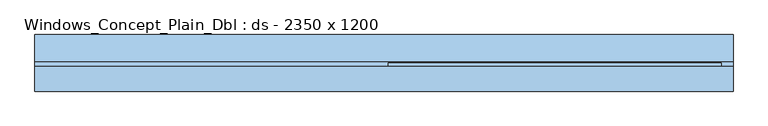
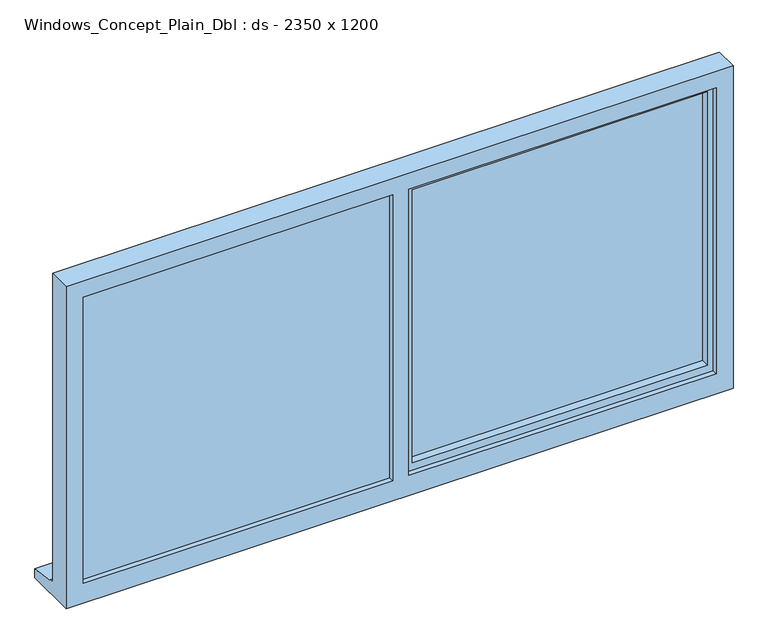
"""IFC4 building model written with IfcOpenShell, lengths in millimetres: window geometry, Windows_Concept_Plain_Dbl : ds - 2350 x 1200."""

from ifc_helpers import new_model, si_unit, frame, origin, place, context, project, spatial, polyline, outline, extrude, faceted_brep, source, transform, mapped, element, save


def windows_concept_plain_dbl_ds_2350_x_1200_e312b389(model_context):
    return source(origin(), model_context, "Body", "SolidModel", [
        extrude(outline(polyline([(820.0, 52.4565678), (-240.0, 52.4565678), (-240.0, 76.4565678), (820.0, 76.4565678), (820.0, 52.4565678)])), frame((0.0, 0.0, 1003.0), z_axis=(0.0, 0.0, 1.0), x_axis=(1.0, 0.0, 0.0)), (0.0, 0.0, 1.0), 1037.0),
        extrude(outline(polyline([(-1420.0, 47.4565678), (-300.0, 47.4565678), (-300.0, 23.4565678), (-1420.0, 23.4565678), (-1420.0, 47.4565678)])), frame((0.0, 0.0, 973.0), z_axis=(0.0, 0.0, 1.0), x_axis=(1.0, 0.0, 0.0)), (0.0, 0.0, 1.0), 1097.0),
        faceted_brep([(890.0, 5.4565678, 2110.0), (-1460.0, 5.4565678, 2110.0), (-1460.0, 5.4565678, 910.0), (890.0, 5.4565678, 910.0), (830.0, 5.4565678, 2050.0), (830.0, 5.4565678, 985.0), (-252.0, 5.4565678, 985.0), (-252.0, 5.4565678, 2050.0), (-310.0, 5.4565678, 2050.0), (-310.0, 5.4565678, 985.0), (-1400.0, 5.4565678, 985.0), (-1400.0, 5.4565678, 2050.0), (-1460.0, 88.4565678, 2110.0), (-1460.0, 88.4565678, 961.0), (-1460.0, 103.4565678, 959.68767), (-1460.0, 103.4565678, 954.7449676), (-1460.0, 195.9565678, 943.8088847), (-1460.0, 195.9565678, 910.0), (890.0, 88.4565678, 2110.0), (890.0, 88.4565678, 961.0), (-1420.0, 88.4565678, 2070.0), (-1420.0, 88.4565678, 973.0), (-310.0, 88.4565678, 973.0), (-310.0, 88.4565678, 2070.0), (-270.0, 88.4565678, 2070.0), (-270.0, 88.4565678, 973.0), (850.0, 88.4565678, 973.0), (850.0, 88.4565678, 2070.0), (-1420.0, 23.4565678, 2070.0), (-1420.0, 23.4565678, 973.0), (-300.0, 23.4565678, 2070.0), (-300.0, 23.4565678, 973.0), (-310.0, 23.4565678, 2050.0), (-1400.0, 23.4565678, 2050.0), (-1400.0, 23.4565678, 985.0), (-310.0, 23.4565678, 985.0), (-270.0, 23.4565678, 2070.0), (850.0, 23.4565678, 2070.0), (850.0, 23.4565678, 973.0), (-270.0, 23.4565678, 973.0), (830.0, 23.4565678, 2050.0), (-252.0, 23.4565678, 2050.0), (-252.0, 23.4565678, 985.0), (830.0, 23.4565678, 985.0), (-310.0, 47.4565678, 2070.0), (-300.0, 47.4565678, 2070.0), (890.0, 195.9565678, 910.0), (890.0, 195.9565678, 943.8088847), (890.0, 103.4565678, 954.7449676), (890.0, 103.4565678, 959.68767), (-300.0, 47.4565678, 973.0), (-310.0, 47.4565678, 973.0)], [[[0, 1, 2, 3], [4, 5, 6, 7], [8, 9, 10, 11]], [[2, 1, 12, 13, 14, 15, 16, 17]], [[13, 12, 18, 19], [20, 21, 22, 23], [24, 25, 26, 27]], [[21, 20, 28, 29]], [[28, 30, 31, 29], [32, 33, 34, 35]], [[36, 37, 38, 39], [40, 41, 42, 43]], [[33, 11, 10, 34]], [[1, 0, 18, 12]], [[28, 20, 23, 44, 45, 30]], [[27, 37, 36, 24]], [[11, 33, 32, 8]], [[40, 4, 7, 41]], [[19, 18, 0, 3, 46, 47, 48, 49]], [[27, 26, 38, 37]], [[4, 40, 43, 5]], [[45, 50, 31, 30]], [[50, 45, 44, 51]], [[51, 44, 23, 22]], [[25, 24, 36, 39]], [[41, 7, 6, 42]], [[8, 32, 35, 9]], [[46, 3, 2, 17]], [[47, 46, 17, 16]], [[48, 47, 16, 15]], [[49, 48, 15, 14]], [[19, 49, 14, 13]], [[22, 21, 29, 31, 50, 51]], [[26, 25, 39, 38]], [[6, 5, 43, 42]], [[35, 34, 10, 9]]]),
        extrude(outline(polyline([(2050.0, -310.0), (2070.0, -310.0), (2070.0, -1420.0), (973.0, -1420.0), (973.0, -310.0), (993.0, -310.0), (993.0, -1400.0), (2050.0, -1400.0), (2050.0, -310.0)])), frame((0.0, 47.4565678, 0.0), z_axis=(0.0, 1.0, 0.0), x_axis=(0.0, 0.0, 1.0)), (0.0, 0.0, 1.0), 41.0),
        faceted_brep([(-270.0, 23.4565678, 2070.0), (-270.0, 100.0035732, 2070.0), (-270.0, 100.0035732, 973.0), (-270.0, 23.4565678, 973.0), (-230.0, 52.4565678, 2030.0), (-230.0, 23.4565678, 2030.0), (-230.0, 23.4565678, 1013.0), (-230.0, 52.4565678, 1013.0), (-240.0, 76.4565678, 2040.0), (-240.0, 52.4565678, 2040.0), (-240.0, 52.4565678, 1003.0), (-240.0, 76.4565678, 1003.0), (-230.0, 100.0035732, 2030.0), (-230.0, 76.4565678, 2030.0), (-230.0, 76.4565678, 1013.0), (-230.0, 100.0035732, 1013.0), (850.0, 100.0035732, 973.0), (850.0, 23.4565678, 973.0), (810.0, 23.4565678, 1013.0), (810.0, 52.4565678, 1013.0), (820.0, 52.4565678, 1003.0), (820.0, 76.4565678, 1003.0), (810.0, 76.4565678, 1013.0), (810.0, 100.0035732, 1013.0), (850.0, 100.0035732, 2070.0), (850.0, 23.4565678, 2070.0), (810.0, 23.4565678, 2030.0), (810.0, 52.4565678, 2030.0), (820.0, 52.4565678, 2040.0), (820.0, 76.4565678, 2040.0), (810.0, 76.4565678, 2030.0), (810.0, 100.0035732, 2030.0)], [[[0, 1, 2, 3]], [[4, 5, 6, 7]], [[8, 9, 10, 11]], [[12, 13, 14, 15]], [[3, 2, 16, 17]], [[7, 6, 18, 19]], [[11, 10, 20, 21]], [[15, 14, 22, 23]], [[17, 16, 24, 25]], [[19, 18, 26, 27]], [[21, 20, 28, 29]], [[23, 22, 30, 31]], [[1, 24, 16, 2], [15, 23, 31, 12]], [[25, 24, 1, 0]], [[3, 17, 25, 0], [5, 26, 18, 6]], [[27, 26, 5, 4]], [[9, 28, 20, 10], [7, 19, 27, 4]], [[29, 28, 9, 8]], [[11, 21, 29, 8], [13, 30, 22, 14]], [[31, 30, 13, 12]]]),
    ])


if __name__ == "__main__":
    model = new_model("IFC4")
    model_context = context("Model", 3, world=origin())
    ifc_project = project(units=[si_unit("LENGTHUNIT", "METRE", prefix="MILLI")], contexts=[model_context])
    site = spatial("IfcSite", under=ifc_project)
    building = spatial("IfcBuilding", under=site)
    placement = place(None, origin())
    windows_concept_plain_dbl_ds_2350_x_1200_shape = windows_concept_plain_dbl_ds_2350_x_1200_e312b389(model_context)
    element("IfcWindow", 1, ObjectType="Windows_Concept_Plain_Dbl : ds - 2350 x 1200", at=placement, inside=building, context=model_context, shape_type="MappedRepresentation", body=[
        mapped(windows_concept_plain_dbl_ds_2350_x_1200_shape, transform((0.0, 0.0, 0.0), x_axis=(1.0, 0.0, 0.0), y_axis=(0.0, 1.0, 0.0), z_axis=(0.0, 0.0, 1.0))),
    ])
    save(model, "model.ifc")
